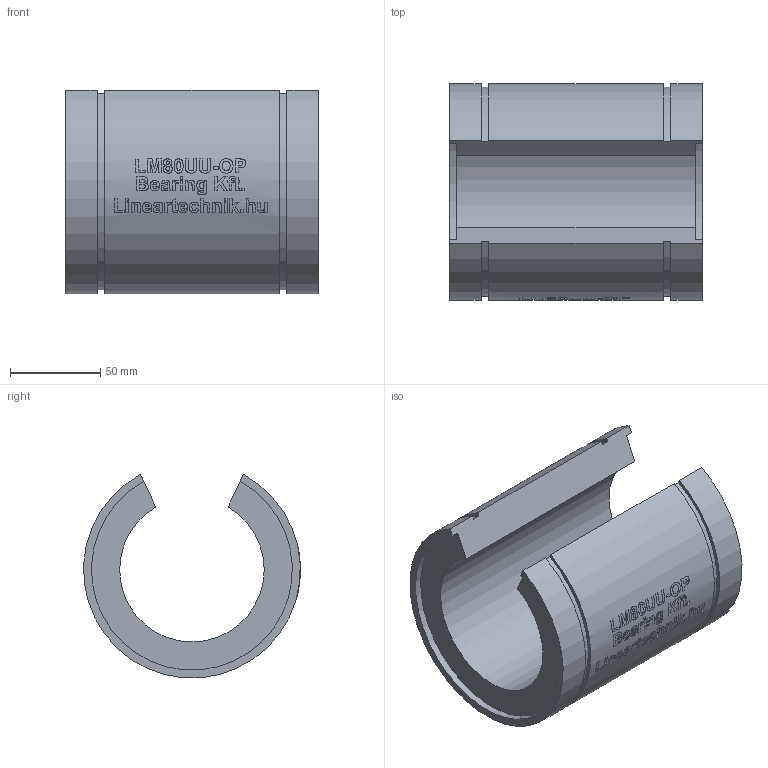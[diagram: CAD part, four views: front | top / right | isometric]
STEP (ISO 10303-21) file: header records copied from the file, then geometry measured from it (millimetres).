
FILE_DESCRIPTION(/* description */ (''),/* implementation_level */ '2;1');
FILE_NAME(/* name */ 'LM80UU-OP',/* time_stamp */ '2019-07-10T16:11:54+02:00',/* author */ ('VĂ©gh MĂˇtĂ©'),/* organization */ ('Bearing Kft'),/* preprocessor_version */ 'ST-DEVELOPER v16.7',/* originating_system */ 'DEX',/* authorisation */ $);
FILE_SCHEMA (('AUTOMOTIVE_DESIGN {1 0 10303 214 3 1 1}'));
Length unit declared in the file: millimetre
Products named in the file (1): LM80UU-OP
Bounding box: 140 x 119.92 x 112.59 mm (x, y, z)
Volume: 701289.9 mm3; surface area: 92854.8 mm2
Topology: 1 solids, 1 shells, 321 faces, 801 edges, 534 vertices
Faces by surface type: plane 163, bspline 98, cylinder 60
Entity records: 22317 total; most frequent: CARTESIAN_POINT 15159, ORIENTED_EDGE 1588, DIRECTION 1193, EDGE_CURVE 794, VERTEX_POINT 534, LINE 445, VECTOR 445, EDGE_LOOP 380
